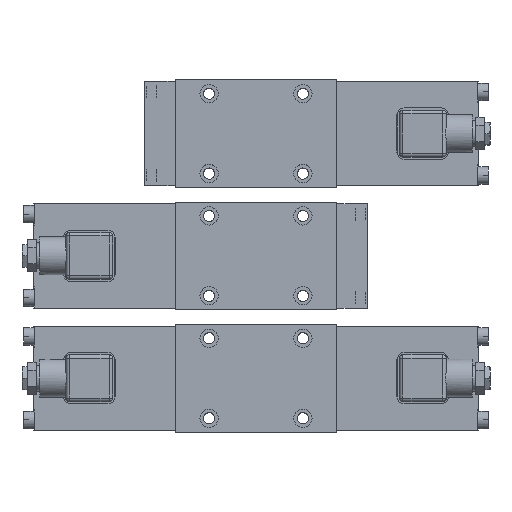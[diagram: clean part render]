
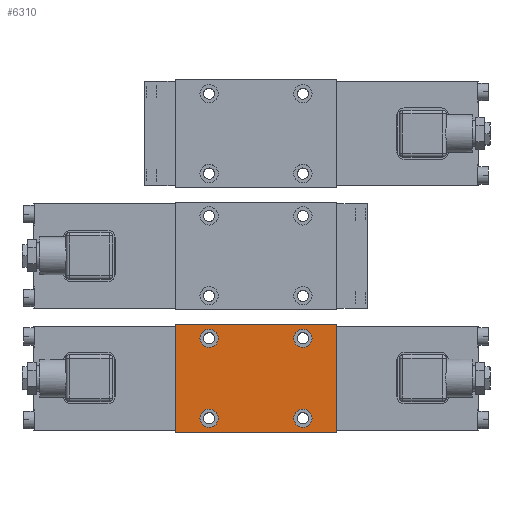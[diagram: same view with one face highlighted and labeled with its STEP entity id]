
A CAD part, top view. The second image highlights one B-rep face of the part: STEP entity #6310.
In plain terms, the highlighted planar face has unit normal (0, 0, 1).
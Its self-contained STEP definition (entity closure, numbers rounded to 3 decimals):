
#6310=ADVANCED_FACE('', (#6320,#6330,#6340,#6350,#6360), #6370, .T.);
#51160=AXIS2_PLACEMENT_3D('Ax2Pl3d', #51170, #51180, #51190);
#51240=AXIS2_PLACEMENT_3D('Ax2Pl3d', #51250, #51260, #51270);
#51320=AXIS2_PLACEMENT_3D('Ax2Pl3d', #51330, #51340, #51350);
#51400=AXIS2_PLACEMENT_3D('Ax2Pl3d', #51410, #51420, #51430);
#51440=AXIS2_PLACEMENT_3D('Ax2Pl3d', #51450, #51460, #51470);
#157850=CARTESIAN_POINT('', (0.,-1.,90.));
#157860=CARTESIAN_POINT('', (0.,-1.,90.));
#157870=CARTESIAN_POINT('', (0.,61.,90.));
#157980=CARTESIAN_POINT('', (93.,61.,90.));
#157990=CARTESIAN_POINT('', (93.,61.,90.));
#158000=CARTESIAN_POINT('', (93.,-1.,90.));
#51170=CARTESIAN_POINT('HicPkt', (19.5,7.,90.));
#158080=CARTESIAN_POINT('', (19.5,12.25,90.));
#51250=CARTESIAN_POINT('HicPkt', (19.5,53.,90.));
#158090=CARTESIAN_POINT('', (19.5,58.25,90.));
#51330=CARTESIAN_POINT('HicPkt', (73.5,53.,90.));
#158100=CARTESIAN_POINT('', (73.5,58.25,90.));
#51410=CARTESIAN_POINT('HicPkt', (73.5,7.,90.));
#158110=CARTESIAN_POINT('', (73.5,12.25,90.));
#51450=CARTESIAN_POINT('HicPkt', (0.,61.,90.));
#158120=CARTESIAN_POINT('', (93.,-1.,90.));
#158130=CARTESIAN_POINT('', (0.,61.,90.));
#185060=CIRCLE('Circle', #51160, 5.25);
#185070=CIRCLE('Circle', #51240, 5.25);
#185080=CIRCLE('Circle', #51320, 5.25);
#185090=CIRCLE('Circle', #51400, 5.25);
#275630=DIRECTION('', (0.,-1.,0.));
#275660=DIRECTION('', (0.,1.,0.));
#51180=DIRECTION('Axis', (0.,0.,1.));
#51190=DIRECTION('RefDirection', (1.,0.,0.));
#51260=DIRECTION('Axis', (0.,0.,1.));
#51270=DIRECTION('RefDirection', (1.,0.,0.));
#51340=DIRECTION('Axis', (0.,0.,1.));
#51350=DIRECTION('RefDirection', (1.,0.,0.));
#51420=DIRECTION('Axis', (0.,0.,1.));
#51430=DIRECTION('RefDirection', (1.,0.,0.));
#51460=DIRECTION('Axis', (0.,0.,1.));
#51470=DIRECTION('RefDirection', (1.,0.,0.));
#275680=DIRECTION('', (1.,0.,0.));
#275690=DIRECTION('', (-1.,0.,0.));
#292170=EDGE_CURVE('', #292180, #292150, #292190, .T.);
#292410=EDGE_CURVE('', #292420, #292390, #292430, .T.);
#292580=EDGE_CURVE('', #292590, #292590, #185060, .T.);
#292600=EDGE_CURVE('', #292610, #292610, #185070, .T.);
#292620=EDGE_CURVE('', #292630, #292630, #185080, .T.);
#292640=EDGE_CURVE('', #292650, #292650, #185090, .T.);
#292660=EDGE_CURVE('', #292150, #292420, #292670, .T.);
#292680=EDGE_CURVE('', #292390, #292180, #292690, .T.);
#345210=EDGE_LOOP('Edge_loop', (#345220,#345230,#345240,#345250));
#345260=EDGE_LOOP('Edge_loop', (#345270));
#345280=EDGE_LOOP('Edge_loop', (#345290));
#345300=EDGE_LOOP('Edge_loop', (#345310));
#345320=EDGE_LOOP('Edge_loop', (#345330));
#6330=FACE_BOUND('', #345260, .T.);
#6340=FACE_BOUND('', #345280, .T.);
#6350=FACE_BOUND('', #345300, .T.);
#6360=FACE_BOUND('', #345320, .T.);
#6320=FACE_OUTER_BOUND('Face_outer_bound', #345210, .T.);
#292190=LINE('Line', #157860, #430420);
#292430=LINE('Line', #157990, #430450);
#292670=LINE('Line', #158120, #430470);
#292690=LINE('Line', #158130, #430480);
#345220=ORIENTED_EDGE('', *, *, #292170, .T.);
#345230=ORIENTED_EDGE('', *, *, #292660, .T.);
#345240=ORIENTED_EDGE('', *, *, #292410, .T.);
#345250=ORIENTED_EDGE('', *, *, #292680, .T.);
#345270=ORIENTED_EDGE('', *, *, #292580, .F.);
#345290=ORIENTED_EDGE('', *, *, #292600, .F.);
#345310=ORIENTED_EDGE('', *, *, #292620, .F.);
#345330=ORIENTED_EDGE('', *, *, #292640, .F.);
#6370=PLANE('Plane', #51440);
#430420=VECTOR('', #275630, 62.);
#430450=VECTOR('', #275660, 62.);
#430470=VECTOR('', #275680, 93.);
#430480=VECTOR('', #275690, 93.);
#292150=VERTEX_POINT('', #157850);
#292180=VERTEX_POINT('', #157870);
#292390=VERTEX_POINT('', #157980);
#292420=VERTEX_POINT('', #158000);
#292590=VERTEX_POINT('', #158080);
#292610=VERTEX_POINT('', #158090);
#292630=VERTEX_POINT('', #158100);
#292650=VERTEX_POINT('', #158110);
